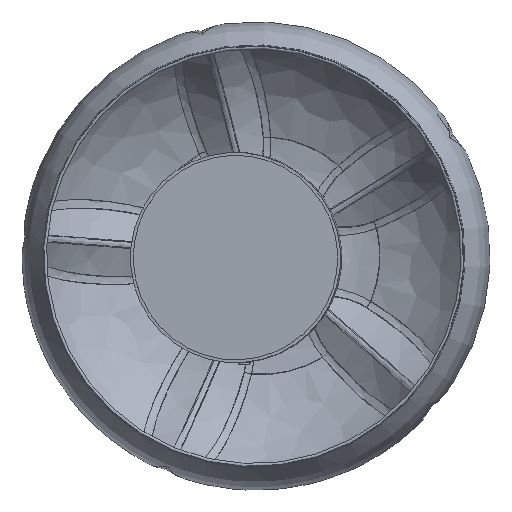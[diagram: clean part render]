
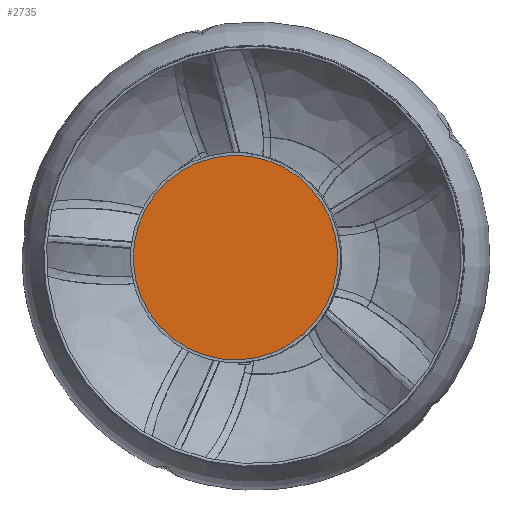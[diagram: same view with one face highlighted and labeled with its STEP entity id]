
A CAD part, front view. The second image highlights one B-rep face of the part: STEP entity #2735.
In plain terms, the highlighted planar face has unit normal (-0.039, -0.999, -0.003).
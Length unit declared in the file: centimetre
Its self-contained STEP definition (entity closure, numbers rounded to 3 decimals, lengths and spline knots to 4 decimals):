
#569=FACE_OUTER_BOUND('',#778,.T.);
#778=EDGE_LOOP('',(#1839));
#986=CIRCLE('',#2978,10.7);
#1119=VERTEX_POINT('',#3614);
#1384=EDGE_CURVE('',#1119,#1119,#986,.T.);
#1839=ORIENTED_EDGE('',*,*,#1384,.T.);
#2705=PLANE('',#2981);
#2735=ADVANCED_FACE('',(#569),#2705,.T.);
#2978=AXIS2_PLACEMENT_3D('',#3615,#3199,#3200);
#2981=AXIS2_PLACEMENT_3D('',#3620,#3206,#3207);
#3199=DIRECTION('center_axis',(-0.039,-0.999,-0.003));
#3200=DIRECTION('ref_axis',(-0.977,0.039,-0.209));
#3206=DIRECTION('center_axis',(-0.039,-0.999,-0.003));
#3207=DIRECTION('ref_axis',(-0.209,0.005,0.978));
#3614=CARTESIAN_POINT('',(8.4344,-1.0337,6.3481));
#3615=CARTESIAN_POINT('Origin',(-2.02,-0.6147,4.1077));
#3620=CARTESIAN_POINT('Origin',(-2.02,-0.6147,4.1077));
